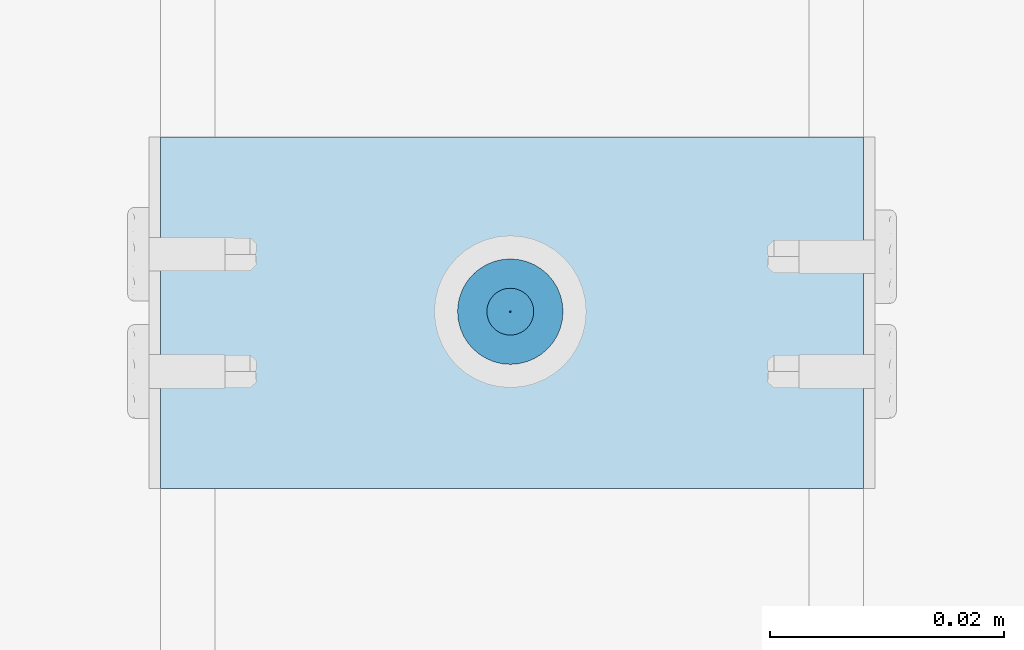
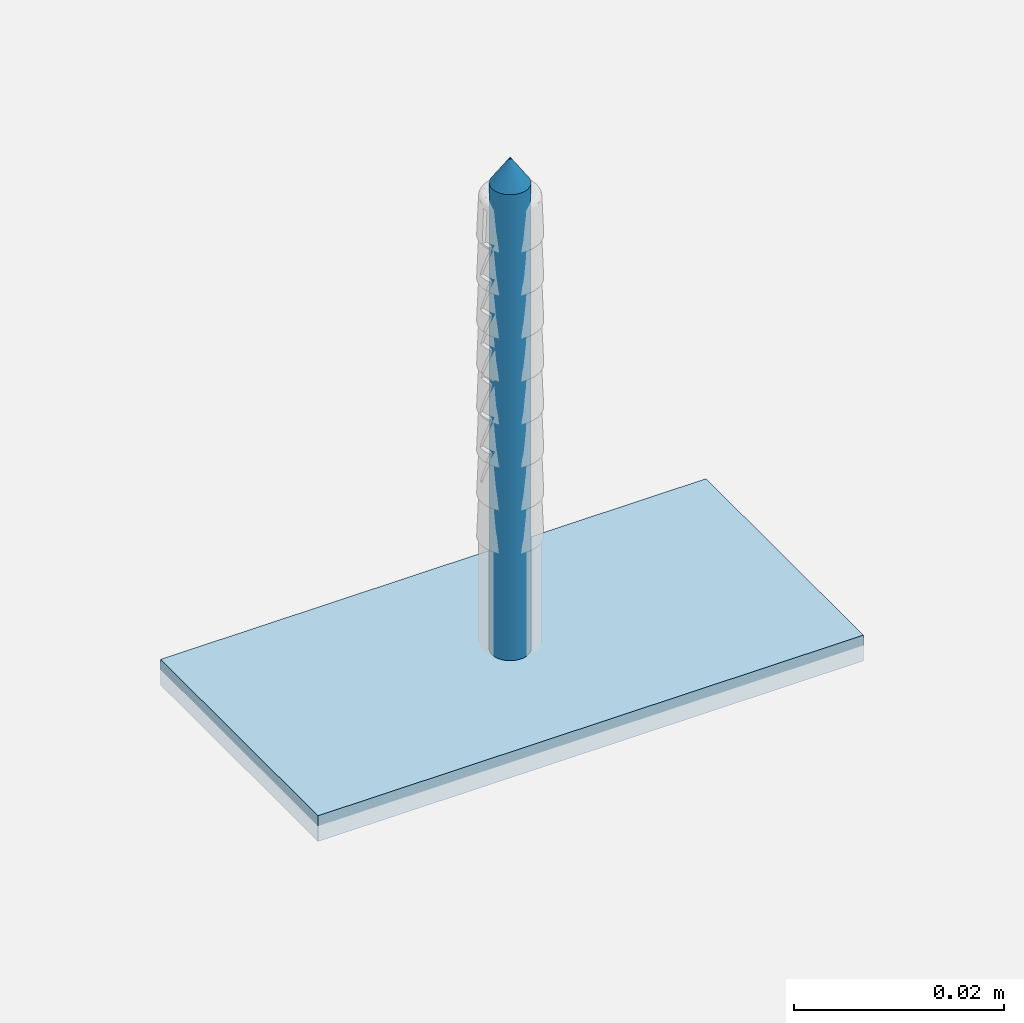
# One storey, part 6 of 62: 2 slabs.
"""IFC2X3 building model written with IfcOpenShell, lengths in millimetres."""

from ifc_helpers import new_model, entity, si_unit, converted_unit, direction, frame, origin, origin_with_axes, place, context, project, spatial, faceted_brep, element, save


model = new_model("IFC2X3")

# Units and contexts
model_context = context("Model", 3, precision=1e-05, world=origin(), true_north=direction((0.0, 1.0, 0.0)))
ifc_project = project(units=[si_unit("LENGTHUNIT", "METRE", prefix="MILLI"), si_unit("AREAUNIT", "SQUARE_METRE"), si_unit("VOLUMEUNIT", "CUBIC_METRE"), converted_unit("PLANEANGLEUNIT", "DEGREE", entity("IfcPlaneAngleMeasure", 0.01745), si_unit("PLANEANGLEUNIT", "RADIAN"), dimensions=[0, 0, 0, 0, 0, 0, 0]), si_unit("SOLIDANGLEUNIT", "STERADIAN"), si_unit("MASSUNIT", "GRAM"), si_unit("TIMEUNIT", "SECOND"), si_unit("THERMODYNAMICTEMPERATUREUNIT", "DEGREE_CELSIUS"), si_unit("LUMINOUSINTENSITYUNIT", "LUMEN")], contexts=[model_context])

# Site, building, storey
site_placement = place(None, origin_with_axes())
site = spatial("IfcSite", under=ifc_project, at=site_placement, Name="Default Site", CompositionType="ELEMENT")
building_placement = place(site_placement, origin_with_axes())
building = spatial("IfcBuilding", under=site, at=building_placement, Name="Default Building", CompositionType="ELEMENT")
storey_placement = place(building_placement, origin_with_axes())
storey = spatial("IfcBuildingStorey", under=building, at=storey_placement, Name="Default Building Storey", CompositionType="ELEMENT", Elevation=0.0)

# Slabs
slab_1_placement = place(storey_placement, frame((2733.040618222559, 1377.603855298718, 1388.424461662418), z_axis=(0.0, -1.0, -6.86006806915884e-13), x_axis=(1.0, 0.0, 0.0)))
element("IfcSlab", 1, at=slab_1_placement, inside=storey, Name="Taśma uszczelniająca piankowa RIGIPS szer.30mm", context=model_context, shape_type="Brep", body=[
    faceted_brep([(59.99999999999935, 0.0, 4.511946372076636e-12), (0.0, 0.0, 0.0), (1.082867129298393e-12, -2.237925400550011e-11, -30.00000000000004), (60.00000000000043, -2.237925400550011e-11, -29.99999999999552), (0.0, 3.00000000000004, 0.0), (1.082867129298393e-12, 2.999999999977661, -30.00000000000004), (60.00000000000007, 3.00000000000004, 0.0), (60.00000000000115, 2.999999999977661, -30.00000000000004)], [[[0, 1, 2, 3]], [[1, 4, 5, 2]], [[4, 6, 7, 5]], [[6, 0, 3, 7]], [[7, 3, 2, 5]], [[0, 6, 4, 1]]]),
])
slab_2_placement = place(storey_placement, frame((6216.179814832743, -41.10778690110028, 1384.974461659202), z_axis=(-6.858158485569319e-13, 6.095830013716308e-13, -1.0), x_axis=(-1.647602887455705e-11, -1.0, -6.095830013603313e-13)))
element("IfcSlab", 2, at=slab_2_placement, inside=storey, Name="Stalowe elementy mocujące", context=model_context, shape_type="Brep", body=[
    faceted_brep([(-1438.31414949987, 3453.283223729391, -0.4642567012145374), (-1435.814149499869, 3453.283223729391, -3.464256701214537), (-1435.78952618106, 3452.97035479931, -3.464256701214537), (-1438.258747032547, 3452.57926863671, -0.4642567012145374), (-1435.71626253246, 3452.665189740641, -3.464256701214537), (-1438.093903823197, 3451.892647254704, -0.4642567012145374), (-1435.596162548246, 3452.375242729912, -3.464256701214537), (-1437.823678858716, 3451.240266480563, -0.4642567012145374), (-1435.432183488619, 3452.107653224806, -3.464256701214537), (-1437.454725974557, 3450.638190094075, -0.4642567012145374), (-1435.228363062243, 3451.869010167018, -3.464256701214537), (-1436.996130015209, 3450.101243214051, -0.4642567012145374), (-1434.989720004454, 3451.665189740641, -3.464256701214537), (-1436.459183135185, 3449.642647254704, -0.4642567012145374), (-1434.722130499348, 3451.501210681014, -3.464256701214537), (-1435.857106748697, 3449.273694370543, -0.4642567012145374), (-1434.432183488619, 3451.381110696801, -3.464256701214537), (-1435.204725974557, 3449.003469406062, -0.4642567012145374), (-1434.12701842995, 3451.307847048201, -3.464256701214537), (-1434.51810459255, 3448.838626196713, -0.4642567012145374), (-1433.814149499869, 3451.283223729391, -3.464256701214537), (-1433.814149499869, 3448.783223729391, -0.4642567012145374), (-1433.501280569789, 3451.307847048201, -3.464256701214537), (-1433.110194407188, 3448.838626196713, -0.4642567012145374), (-1433.19611551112, 3451.381110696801, -3.464256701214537), (-1432.423573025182, 3449.003469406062, -0.4642567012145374), (-1432.906168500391, 3451.501210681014, -3.464256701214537), (-1431.771192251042, 3449.273694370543, -0.4642567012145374), (-1432.638578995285, 3451.665189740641, -3.464256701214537), (-1431.169115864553, 3449.642647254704, -0.4642567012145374), (-1432.399935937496, 3451.869010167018, -3.464256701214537), (-1430.63216898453, 3450.101243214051, -0.4642567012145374), (-1432.196115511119, 3452.107653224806, -3.464256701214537), (-1430.173573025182, 3450.638190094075, -0.4642567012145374), (-1432.032136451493, 3452.375242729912, -3.464256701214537), (-1429.804620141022, 3451.240266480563, -0.4642567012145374), (-1431.912036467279, 3452.665189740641, -3.464256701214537), (-1429.534395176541, 3451.892647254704, -0.4642567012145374), (-1431.838772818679, 3453.596092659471, -3.464256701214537), (-1429.369551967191, 3453.987178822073, -0.4642567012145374), (-1429.314149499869, 3453.283223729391, -0.4642567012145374), (-1431.81414949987, 3453.283223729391, -3.464256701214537), (-1429.369551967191, 3452.57926863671, -0.4642567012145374), (-1431.838772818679, 3452.97035479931, -3.464256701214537), (-1431.912036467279, 3453.901257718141, -3.464256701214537), (-1429.534395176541, 3454.673800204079, -0.4642567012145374), (-1432.032136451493, 3454.19120472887, -3.464256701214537), (-1429.804620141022, 3455.326180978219, -0.4642567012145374), (-1432.196115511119, 3454.458794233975, -3.464256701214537), (-1430.173573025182, 3455.928257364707, -0.4642567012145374), (-1432.399935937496, 3454.697437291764, -3.464256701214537), (-1430.63216898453, 3456.465204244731, -0.4642567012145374), (-1432.638578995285, 3454.901257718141, -3.464256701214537), (-1431.169115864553, 3456.923800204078, -0.4642567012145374), (-1432.906168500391, 3455.065236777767, -3.464256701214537), (-1431.771192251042, 3457.292753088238, -0.4642567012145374), (-1433.19611551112, 3455.185336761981, -3.464256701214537), (-1432.423573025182, 3457.562978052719, -0.4642567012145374), (-1433.501280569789, 3455.258600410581, -3.464256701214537), (-1433.110194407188, 3457.727821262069, -0.4642567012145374), (-1433.814149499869, 3455.283223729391, -3.464256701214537), (-1433.814149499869, 3457.783223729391, -0.4642567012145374), (-1434.34306778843, 3457.752031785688, -0.4642567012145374), (-1434.12701842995, 3455.258600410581, -3.464256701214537), (-1434.432183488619, 3455.185336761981, -3.464256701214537), (-1434.864653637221, 3457.658888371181, -0.4642567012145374), (-1435.371676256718, 3457.505084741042, -0.4642567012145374), (-1434.722130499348, 3455.065236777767, -3.464256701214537), (-1435.857106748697, 3457.292753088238, -0.4642567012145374), (-1434.989720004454, 3454.901257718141, -3.464256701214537), (-1435.228363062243, 3454.697437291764, -3.464256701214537), (-1436.314215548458, 3457.024836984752, -0.4642567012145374), (-1436.736665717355, 3456.705050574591, -0.4642567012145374), (-1437.11860079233, 3456.337827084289, -0.4642567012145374), (-1437.454725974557, 3455.928257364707, -0.4642567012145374), (-1435.432183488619, 3454.458794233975, -3.464256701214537), (-1435.596162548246, 3454.19120472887, -3.464256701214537), (-1437.823678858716, 3455.326180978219, -0.4642567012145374), (-1435.71626253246, 3453.901257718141, -3.464256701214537), (-1438.093903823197, 3454.673800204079, -0.4642567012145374), (-1435.78952618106, 3453.596092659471, -3.464256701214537), (-1438.258747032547, 3453.987178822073, -0.4642567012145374), (-1434.205235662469, 3455.752444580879, 0.2007375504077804), (-1433.814149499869, 3455.78322372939, 0.2007375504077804), (-1434.586691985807, 3455.660865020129, 0.2007375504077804), (-1434.949125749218, 3455.510740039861, 0.2007375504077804), (-1435.283612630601, 3455.305766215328, 0.2007375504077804), (-1435.581916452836, 3455.050990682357, 0.2007375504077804), (-1435.836691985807, 3454.752686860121, 0.2007375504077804), (-1436.04166581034, 3454.41819997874, 0.2007375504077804), (-1436.191790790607, 3454.055766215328, 0.2007375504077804), (-1436.283370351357, 3453.674309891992, 0.2007375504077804), (-1436.314149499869, 3453.283223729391, 0.2007375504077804), (-1436.283370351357, 3452.892137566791, 0.2007375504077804), (-1436.191790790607, 3452.510681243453, 0.2007375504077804), (-1436.04166581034, 3452.148247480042, 0.2007375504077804), (-1435.836691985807, 3451.81376059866, 0.200737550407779), (-1435.581916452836, 3451.515456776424, 0.2007375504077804), (-1435.283612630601, 3451.260681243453, 0.2007375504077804), (-1434.949125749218, 3451.05570741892, 0.2007375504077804), (-1434.586691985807, 3450.905582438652, 0.2007375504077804), (-1433.423063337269, 3450.814002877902, 0.2007375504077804), (-1433.814149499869, 3450.783223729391, 0.2007375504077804), (-1434.205235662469, 3450.814002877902, 0.2007375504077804), (-1433.041607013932, 3450.905582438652, 0.2007375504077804), (-1432.67917325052, 3451.05570741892, 0.2007375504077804), (-1432.344686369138, 3451.260681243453, 0.2007375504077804), (-1432.046382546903, 3451.515456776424, 0.2007375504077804), (-1431.791607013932, 3451.81376059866, 0.2007375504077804), (-1431.586633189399, 3452.148247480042, 0.2007375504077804), (-1431.436508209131, 3452.510681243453, 0.2007375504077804), (-1431.344928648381, 3452.892137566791, 0.2007375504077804), (-1431.314149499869, 3453.283223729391, 0.2007375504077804), (-1431.344928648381, 3453.674309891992, 0.2007375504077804), (-1431.436508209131, 3454.055766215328, 0.2007375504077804), (-1431.586633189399, 3454.41819997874, 0.2007375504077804), (-1431.791607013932, 3454.752686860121, 0.2007375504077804), (-1432.046382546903, 3455.050990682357, 0.2007375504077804), (-1432.344686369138, 3455.305766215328, 0.2007375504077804), (-1432.67917325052, 3455.510740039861, 0.2007375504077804), (-1433.041607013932, 3455.660865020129, 0.2007375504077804), (-1433.423063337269, 3455.752444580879, 0.2007375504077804), (-1433.814149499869, 3453.283223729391, -63.46425670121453), (-1435.789526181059, 3452.97035479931, -60.46425670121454), (-1435.814149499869, 3453.283223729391, -60.46425670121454), (-1435.716262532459, 3452.665189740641, -60.46425670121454), (-1435.596162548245, 3452.375242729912, -60.46425670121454), (-1435.432183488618, 3452.107653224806, -60.46425670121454), (-1435.228363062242, 3451.869010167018, -60.46425670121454), (-1434.989720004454, 3451.665189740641, -60.46425670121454), (-1434.722130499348, 3451.501210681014, -60.46425670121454), (-1434.432183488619, 3451.381110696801, -60.46425670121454), (-1434.127018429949, 3451.307847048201, -60.46425670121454), (-1433.814149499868, 3451.283223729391, -60.46425670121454), (-1433.501280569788, 3451.307847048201, -60.46425670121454), (-1433.196115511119, 3451.381110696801, -60.46425670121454), (-1432.90616850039, 3451.501210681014, -60.46425670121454), (-1432.638578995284, 3451.665189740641, -60.46425670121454), (-1432.399935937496, 3451.869010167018, -60.46425670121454), (-1432.196115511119, 3452.107653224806, -60.46425670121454), (-1432.032136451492, 3452.375242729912, -60.46425670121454), (-1431.912036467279, 3452.665189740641, -60.46425670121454), (-1431.838772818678, 3452.97035479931, -60.46425670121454), (-1431.814149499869, 3453.283223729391, -60.46425670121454), (-1431.838772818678, 3453.596092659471, -60.46425670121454), (-1431.912036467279, 3453.901257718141, -60.46425670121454), (-1432.032136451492, 3454.19120472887, -60.46425670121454), (-1432.196115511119, 3454.458794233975, -60.46425670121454), (-1432.399935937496, 3454.697437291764, -60.46425670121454), (-1432.638578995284, 3454.901257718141, -60.46425670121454), (-1432.90616850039, 3455.065236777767, -60.46425670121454), (-1433.196115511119, 3455.185336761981, -60.46425670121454), (-1433.501280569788, 3455.258600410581, -60.46425670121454), (-1433.814149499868, 3455.283223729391, -60.46425670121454), (-1434.127018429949, 3455.258600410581, -60.46425670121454), (-1434.432183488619, 3455.185336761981, -60.46425670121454), (-1434.722130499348, 3455.065236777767, -60.46425670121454), (-1434.989720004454, 3454.901257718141, -60.46425670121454), (-1435.228363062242, 3454.697437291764, -60.46425670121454), (-1435.432183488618, 3454.458794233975, -60.46425670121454), (-1435.596162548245, 3454.19120472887, -60.46425670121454), (-1435.716262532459, 3453.901257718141, -60.46425670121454), (-1435.789526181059, 3453.596092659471, -60.46425670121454), (-1435.814149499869, 3453.783223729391, 0.04999999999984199), (-1436.04166581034, 3454.41819997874, 0.04999999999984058), (-1436.191790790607, 3454.055766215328, 0.04999999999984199), (-1435.814149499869, 3452.783223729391, 0.04999999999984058), (-1434.314149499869, 3453.783223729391, 0.04999999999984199), (-1434.314149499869, 3455.28322372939, 0.04999999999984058), (-1433.314149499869, 3455.28322372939, 0.04999999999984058), (-1433.314149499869, 3453.783223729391, 0.04999999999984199), (-1431.814149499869, 3453.783223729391, 0.04999999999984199), (-1431.814149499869, 3452.783223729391, 0.04999999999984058), (-1433.314149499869, 3452.783223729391, 0.04999999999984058), (-1433.314149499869, 3451.283223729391, 0.04999999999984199), (-1434.314149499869, 3451.283223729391, 0.04999999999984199), (-1434.314149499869, 3452.783223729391, 0.04999999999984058), (-1436.283370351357, 3453.674309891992, 0.04999999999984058), (-1436.314149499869, 3453.283223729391, 0.04999999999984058), (-1436.283370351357, 3452.892137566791, 0.04999999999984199), (-1436.191790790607, 3452.510681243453, 0.04999999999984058), (-1436.04166581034, 3452.148247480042, 0.04999999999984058), (-1435.836691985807, 3451.81376059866, 0.04999999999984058), (-1435.581916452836, 3451.515456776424, 0.04999999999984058), (-1435.283612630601, 3451.260681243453, 0.04999999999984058), (-1434.949125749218, 3451.05570741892, 0.04999999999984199), (-1434.586691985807, 3450.905582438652, 0.04999999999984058), (-1434.205235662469, 3450.814002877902, 0.04999999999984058), (-1433.814149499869, 3450.783223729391, 0.04999999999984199), (-1433.423063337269, 3450.814002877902, 0.04999999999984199), (-1433.041607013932, 3450.905582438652, 0.04999999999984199), (-1432.67917325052, 3451.05570741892, 0.04999999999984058), (-1432.344686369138, 3451.260681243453, 0.04999999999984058), (-1432.046382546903, 3451.515456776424, 0.04999999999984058), (-1431.791607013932, 3451.81376059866, 0.04999999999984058), (-1431.586633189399, 3452.148247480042, 0.04999999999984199), (-1431.436508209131, 3452.510681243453, 0.04999999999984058), (-1431.344928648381, 3452.892137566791, 0.04999999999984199), (-1431.314149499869, 3453.283223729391, 0.04999999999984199), (-1431.344928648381, 3453.674309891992, 0.04999999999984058), (-1431.436508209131, 3454.055766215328, 0.04999999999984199), (-1431.586633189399, 3454.41819997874, 0.04999999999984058), (-1431.791607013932, 3454.752686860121, 0.04999999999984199), (-1432.046382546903, 3455.050990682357, 0.04999999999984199), (-1432.344686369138, 3455.305766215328, 0.04999999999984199), (-1432.67917325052, 3455.510740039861, 0.04999999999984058), (-1433.041607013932, 3455.660865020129, 0.04999999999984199), (-1433.423063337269, 3455.752444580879, 0.04999999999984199), (-1433.814149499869, 3455.78322372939, 0.04999999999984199), (-1434.205235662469, 3455.752444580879, 0.04999999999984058), (-1434.586691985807, 3455.660865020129, 0.04999999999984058), (-1434.949125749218, 3455.510740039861, 0.04999999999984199), (-1435.283612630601, 3455.305766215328, 0.04999999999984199), (-1435.581916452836, 3455.050990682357, 0.04999999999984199), (-1435.836691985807, 3454.752686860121, 0.04999999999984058), (-1434.314149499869, 3452.783223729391, -1.79926244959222), (-1434.314149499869, 3451.283223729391, -1.799262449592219), (-1433.314149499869, 3451.283223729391, -1.799262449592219), (-1433.314149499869, 3452.783223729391, -1.79926244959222), (-1431.81414949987, 3452.783223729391, -1.79926244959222), (-1431.81414949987, 3453.783223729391, -1.799262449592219), (-1433.314149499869, 3453.783223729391, -1.799262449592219), (-1433.314149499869, 3455.28322372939, -1.79926244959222), (-1434.314149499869, 3455.28322372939, -1.79926244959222), (-1434.314149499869, 3453.783223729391, -1.799262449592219), (-1435.814149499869, 3453.783223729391, -1.799262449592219), (-1435.814149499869, 3452.783223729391, -1.79926244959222)], [[[0, 1, 2, 3]], [[4, 5, 3, 2]], [[6, 7, 5, 4]], [[7, 6, 8, 9]], [[10, 11, 9, 8]], [[11, 10, 12, 13]], [[14, 15, 13, 12]], [[16, 17, 15, 14]], [[17, 16, 18, 19]], [[20, 21, 19, 18]], [[21, 20, 22, 23]], [[24, 25, 23, 22]], [[26, 27, 25, 24]], [[27, 26, 28, 29]], [[30, 31, 29, 28]], [[31, 30, 32, 33]], [[34, 35, 33, 32]], [[36, 37, 35, 34]], [[38, 39, 40, 41]], [[41, 40, 42, 43]], [[37, 36, 43, 42]], [[44, 45, 39, 38]], [[46, 47, 45, 44]], [[47, 46, 48, 49]], [[50, 51, 49, 48]], [[51, 50, 52, 53]], [[54, 55, 53, 52]], [[56, 57, 55, 54]], [[57, 56, 58, 59]], [[60, 61, 59, 58]], [[62, 61, 63]], [[61, 60, 63]], [[63, 64, 62]], [[64, 65, 62]], [[66, 65, 64]], [[64, 67, 66]], [[67, 68, 66]], [[69, 70, 71]], [[70, 72, 71]], [[71, 68, 69]], [[68, 67, 69]], [[70, 73, 72]], [[74, 73, 75]], [[73, 70, 75]], [[76, 77, 74, 75]], [[78, 79, 77, 76]], [[79, 78, 80, 81]], [[1, 0, 81, 80]], [[82, 83, 62]], [[83, 61, 62]], [[62, 65, 82]], [[65, 84, 82]], [[66, 68, 84]], [[68, 85, 84]], [[84, 65, 66]], [[86, 85, 71]], [[85, 68, 71]], [[72, 73, 87]], [[87, 86, 72]], [[86, 71, 72]], [[88, 87, 74]], [[87, 73, 74]], [[77, 89, 88, 74]], [[79, 90, 89, 77]], [[90, 79, 81, 91]], [[0, 92, 91, 81]], [[92, 0, 3, 93]], [[5, 94, 93, 3]], [[7, 95, 94, 5]], [[95, 7, 9, 96]], [[11, 97, 96, 9]], [[97, 11, 13, 98]], [[15, 99, 98, 13]], [[17, 100, 99, 15]], [[23, 101, 102, 21]], [[21, 102, 103, 19]], [[100, 17, 19, 103]], [[25, 104, 101, 23]], [[27, 105, 104, 25]], [[105, 27, 29, 106]], [[31, 107, 106, 29]], [[107, 31, 33, 108]], [[35, 109, 108, 33]], [[37, 110, 109, 35]], [[110, 37, 42, 111]], [[40, 112, 111, 42]], [[112, 40, 39, 113]], [[45, 114, 113, 39]], [[47, 115, 114, 45]], [[115, 47, 49, 116]], [[51, 117, 116, 49]], [[117, 51, 53, 118]], [[55, 119, 118, 53]], [[57, 120, 119, 55]], [[120, 57, 59, 121]], [[61, 83, 121, 59]], [[122, 123, 124]], [[122, 125, 123]], [[122, 126, 125]], [[127, 126, 122]], [[122, 128, 127]], [[129, 128, 122]], [[122, 130, 129]], [[122, 131, 130]], [[132, 131, 122]], [[122, 133, 132]], [[134, 133, 122]], [[122, 135, 134]], [[122, 136, 135]], [[137, 136, 122]], [[122, 138, 137]], [[139, 138, 122]], [[122, 140, 139]], [[122, 141, 140]], [[142, 141, 122]], [[122, 143, 142]], [[144, 143, 122]], [[122, 145, 144]], [[122, 146, 145]], [[147, 146, 122]], [[122, 148, 147]], [[149, 148, 122]], [[122, 150, 149]], [[122, 151, 150]], [[152, 151, 122]], [[122, 153, 152]], [[154, 153, 122]], [[122, 155, 154]], [[122, 156, 155]], [[157, 156, 122]], [[122, 158, 157]], [[159, 158, 122]], [[122, 160, 159]], [[122, 161, 160]], [[162, 161, 122]], [[124, 162, 122]], [[1, 124, 123, 2]], [[125, 4, 2, 123]], [[126, 6, 4, 125]], [[6, 126, 127, 8]], [[128, 10, 8, 127]], [[10, 128, 129, 12]], [[130, 14, 12, 129]], [[131, 16, 14, 130]], [[16, 131, 132, 18]], [[133, 20, 18, 132]], [[20, 133, 134, 22]], [[135, 24, 22, 134]], [[136, 26, 24, 135]], [[26, 136, 137, 28]], [[138, 30, 28, 137]], [[30, 138, 139, 32]], [[140, 34, 32, 139]], [[141, 36, 34, 140]], [[144, 38, 41, 143]], [[143, 41, 43, 142]], [[36, 141, 142, 43]], [[145, 44, 38, 144]], [[146, 46, 44, 145]], [[46, 146, 147, 48]], [[148, 50, 48, 147]], [[50, 148, 149, 52]], [[150, 54, 52, 149]], [[151, 56, 54, 150]], [[56, 151, 152, 58]], [[153, 60, 58, 152]], [[60, 153, 154, 63]], [[155, 64, 63, 154]], [[156, 67, 64, 155]], [[67, 156, 157, 69]], [[158, 70, 69, 157]], [[70, 158, 159, 75]], [[160, 76, 75, 159]], [[161, 78, 76, 160]], [[78, 161, 162, 80]], [[124, 1, 80, 162]], [[163, 164, 165, 166]], [[163, 167, 168, 169, 170, 171, 172, 173, 174, 175, 176, 166, 165, 177, 178, 179, 180, 181, 182, 183, 184, 185, 186, 187, 188, 189, 190, 191, 192, 193, 194, 195, 196, 197, 198, 199, 200, 201, 202, 203, 204, 205, 206, 207, 208, 209, 210, 211, 212, 213, 214, 164]], [[199, 198, 112, 113]], [[113, 114, 200, 199]], [[114, 115, 201, 200]], [[202, 201, 115, 116]], [[116, 117, 203, 202]], [[204, 203, 117, 118]], [[118, 119, 205, 204]], [[119, 120, 206, 205]], [[207, 206, 120, 121]], [[121, 83, 208, 207]], [[209, 208, 83, 82]], [[82, 84, 210, 209]], [[84, 85, 211, 210]], [[212, 211, 85, 86]], [[86, 87, 213, 212]], [[214, 213, 87, 88]], [[88, 89, 164, 214]], [[89, 90, 165, 164]], [[92, 93, 179, 178]], [[91, 92, 178, 177]], [[177, 165, 90, 91]], [[93, 94, 180, 179]], [[94, 95, 181, 180]], [[182, 181, 95, 96]], [[96, 97, 183, 182]], [[184, 183, 97, 98]], [[98, 99, 185, 184]], [[99, 100, 186, 185]], [[187, 186, 100, 103]], [[103, 102, 188, 187]], [[189, 188, 102, 101]], [[101, 104, 190, 189]], [[104, 105, 191, 190]], [[192, 191, 105, 106]], [[106, 107, 193, 192]], [[194, 193, 107, 108]], [[108, 109, 195, 194]], [[109, 110, 196, 195]], [[197, 196, 110, 111]], [[111, 112, 198, 197]], [[215, 216, 217, 218, 219, 220, 221, 222, 223, 224, 225, 226]], [[216, 175, 174, 217]], [[215, 176, 175, 216]], [[226, 166, 176, 215]], [[225, 163, 166, 226]], [[224, 167, 163, 225]], [[223, 168, 167, 224]], [[222, 169, 168, 223]], [[221, 170, 169, 222]], [[220, 171, 170, 221]], [[219, 172, 171, 220]], [[218, 173, 172, 219]], [[217, 174, 173, 218]]]),
])

save(model, "model.ifc")
